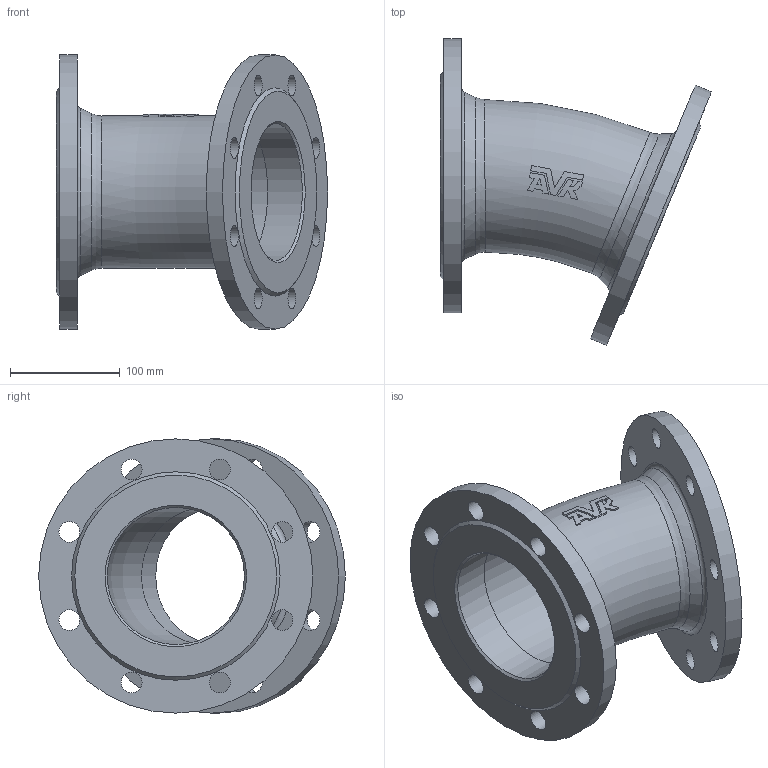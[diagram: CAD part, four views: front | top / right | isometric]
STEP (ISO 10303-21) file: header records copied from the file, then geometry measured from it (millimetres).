
FILE_DESCRIPTION (( 'STEP AP203' ), '1' );
FILE_NAME ('O_712_0210_DN125_1X_REV01.step', '2024-08-16T09:39:33', ( '' ), ( '' ), 'SwSTEP 2.0', 'SolidWorks 2022', '' );
FILE_SCHEMA (( 'CONFIG_CONTROL_DESIGN' ));
Length unit declared in the file: millimetre
Products named in the file (1): O_712_0210_DN125_1X_REV01
Bounding box: 247.07 x 279.52 x 250 mm (x, y, z)
Volume: 1755274.7 mm3; surface area: 324284.4 mm2
Topology: 1 solids, 1 shells, 79 faces, 220 edges, 151 vertices
Faces by surface type: plane 41, cylinder 22, torus 8, cone 6, bspline 2
Full cylindrical faces by diameter (mm): 19 x16, 125 x2, 250 x2
Entity records: 4034 total; most frequent: CARTESIAN_POINT 2245, ORIENTED_EDGE 330, DIRECTION 293, EDGE_CURVE 165, EDGE_LOOP 153, AXIS2_PLACEMENT_3D 128, VERTEX_POINT 128, FACE_OUTER_BOUND 105
